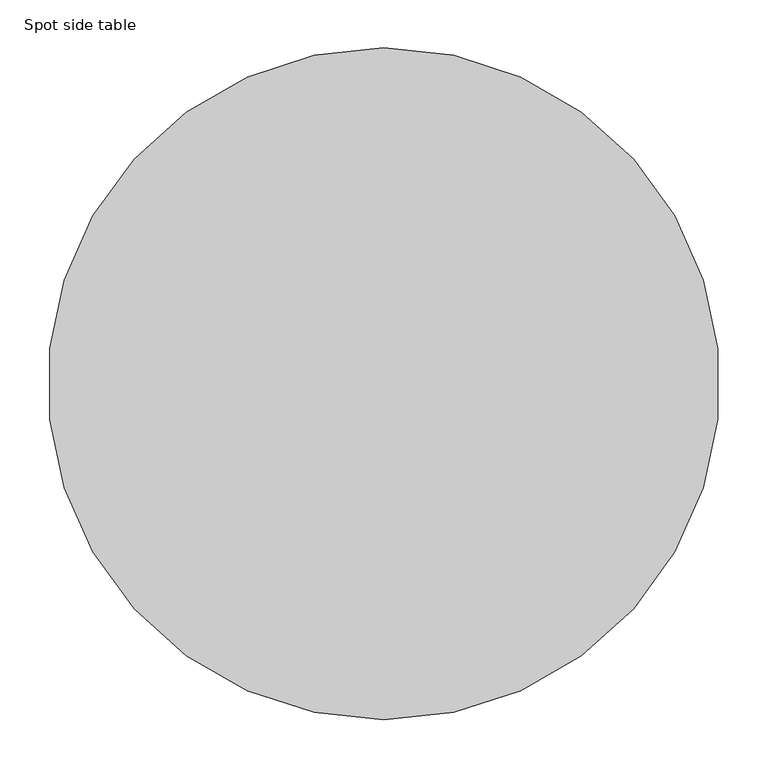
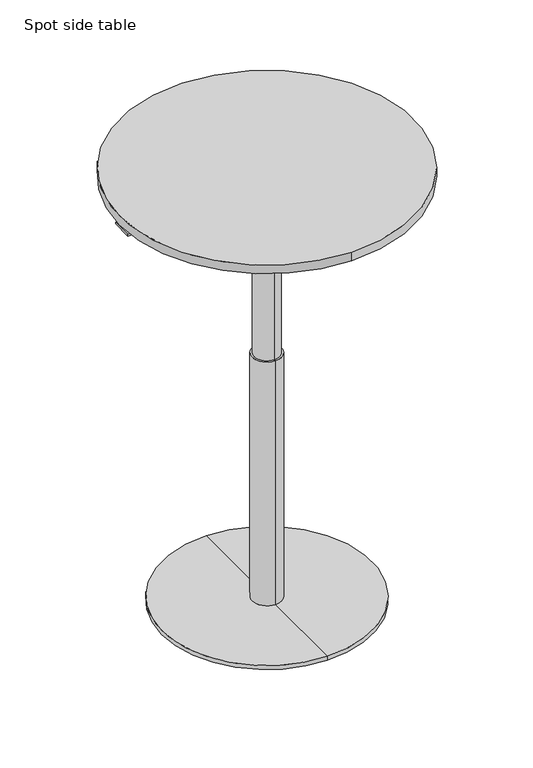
"""IFC4 building model written with IfcOpenShell, lengths in millimetres: furniture geometry, Spot side table : ø70."""

from ifc_helpers import new_model, si_unit, point, frame, origin, origin_2d, place, context, project, spatial, polyline, circle_curve, trimmed, segment, composite_curve, outline, extrude, source, transform, mapped, element, save
from ifc_brep_helpers import plane_surface, cylinder_surface, revolved_surface, advanced_brep


def spot_side_table_6c597cbb(model_context):
    return source(origin(), model_context, "Body", "SolidModel", [
        advanced_brep(
        [(0.0, 35.0, 12.0), (0.0, -35.0, 12.0), (0.0, -35.0, 625.0), (0.0, 35.0, 625.0), (0.0, 250.0, 12.0), (0.0, -250.0, 12.0), (0.0, 250.0, 2.0), (0.0, -250.0, 2.0), (0.0, 0.0, 2.0), (0.0, 150.0, 1068.0), (0.0, -150.0, 1068.0), (0.0, 0.0, 1068.0), (0.0, 150.0, 1056.7213673), (0.0, -150.0, 1056.7213673), (0.0, 30.0, 1037.0795524), (0.0, -30.0, 1037.0795524), (0.0, 30.0, 625.0), (0.0, -30.0, 625.0)],
        [
            (0, 1, circle_curve(frame((0.0, 0.0, 12.0), z_axis=(0.0, 0.0, 1.0), x_axis=(0.0, -1.0, 0.0)), 35.0)),
            (1, 2),
            (2, 3, circle_curve(frame((0.0, 0.0, 625.0), z_axis=(0.0, 0.0, -1.0), x_axis=(0.0, -1.0, 0.0)), 35.0)),
            (3, 0),
            (1, 0, circle_curve(frame((0.0, 0.0, 12.0), z_axis=(0.0, 0.0, 1.0), x_axis=(0.0, -1.0, 0.0)), 35.0)),
            (3, 2, circle_curve(frame((0.0, 0.0, 625.0), z_axis=(0.0, 0.0, -1.0), x_axis=(0.0, -1.0, 0.0)), 35.0)),
            (4, 5, circle_curve(frame((0.0, 0.0, 12.0), z_axis=(0.0, 0.0, 1.0), x_axis=(0.0, -1.0, 0.0)), 250.0)),
            (5, 1),
            (0, 4),
            (5, 4, circle_curve(frame((0.0, 0.0, 12.0), z_axis=(0.0, 0.0, 1.0), x_axis=(0.0, -1.0, 0.0)), 250.0)),
            (6, 7, circle_curve(frame((0.0, 0.0, 2.0), z_axis=(0.0, 0.0, 1.0), x_axis=(0.0, -1.0, 0.0)), 250.0)),
            (7, 5),
            (4, 6),
            (7, 6, circle_curve(frame((0.0, 0.0, 2.0), z_axis=(0.0, 0.0, 1.0), x_axis=(0.0, -1.0, 0.0)), 250.0)),
            (8, 7),
            (6, 8),
            (9, 10, circle_curve(frame((0.0, 0.0, 1068.0), z_axis=(0.0, 0.0, 1.0), x_axis=(0.0, -1.0, 0.0)), 150.0)),
            (10, 11),
            (11, 9),
            (10, 9, circle_curve(frame((0.0, 0.0, 1068.0), z_axis=(0.0, 0.0, 1.0), x_axis=(0.0, -1.0, 0.0)), 150.0)),
            (12, 13, circle_curve(frame((0.0, 0.0, 1056.7213673), z_axis=(0.0, 0.0, 1.0), x_axis=(0.0, -1.0, 0.0)), 150.0)),
            (13, 10),
            (9, 12),
            (13, 12, circle_curve(frame((0.0, 0.0, 1056.7213673), z_axis=(0.0, 0.0, 1.0), x_axis=(0.0, -1.0, 0.0)), 150.0)),
            (14, 15, circle_curve(frame((0.0, 0.0, 1037.0795524), z_axis=(0.0, 0.0, 1.0), x_axis=(0.0, -1.0, 0.0)), 30.0)),
            (15, 13),
            (12, 14),
            (15, 14, circle_curve(frame((0.0, 0.0, 1037.0795524), z_axis=(0.0, 0.0, 1.0), x_axis=(0.0, -1.0, 0.0)), 30.0)),
            (16, 17, circle_curve(frame((0.0, 0.0, 625.0), z_axis=(0.0, 0.0, 1.0), x_axis=(0.0, -1.0, 0.0)), 30.0)),
            (17, 15),
            (14, 16),
            (17, 16, circle_curve(frame((0.0, 0.0, 625.0), z_axis=(0.0, 0.0, 1.0), x_axis=(0.0, -1.0, 0.0)), 30.0)),
            (2, 17),
            (16, 3),
        ],
        [
            cylinder_surface(frame((0.0, 0.0, 1430.0), z_axis=(0.0, 0.0, -1.0), x_axis=(0.0, -1.0, 0.0)), 35.0),
            plane_surface(frame((0.0, 0.0, 12.0), z_axis=(0.0, 0.0, 1.0), x_axis=(0.0, -1.0, 0.0))),
            cylinder_surface(frame((0.0, 0.0, 1430.0), z_axis=(0.0, 0.0, -1.0), x_axis=(0.0, -1.0, 0.0)), 250.0),
            plane_surface(frame((0.0, 0.0, 2.0), z_axis=(0.0, 0.0, -1.0), x_axis=(0.0, -1.0, 0.0))),
            plane_surface(frame((0.0, 0.0, 1068.0), z_axis=(0.0, 0.0, 1.0), x_axis=(0.0, -1.0, 0.0))),
            cylinder_surface(frame((0.0, 0.0, 1430.0), z_axis=(0.0, 0.0, -1.0), x_axis=(0.0, -1.0, 0.0)), 150.0),
            revolved_surface(polyline([(0.0, -150.0, 1056.7213673), (0.0, -30.0, 1037.0795524)]), (0.0, 0.0, 1430.0), (0.0, 0.0, -1.0)),
            cylinder_surface(frame((0.0, 0.0, 1430.0), z_axis=(0.0, 0.0, -1.0), x_axis=(0.0, -1.0, 0.0)), 30.0),
            plane_surface(frame((0.0, 0.0, 625.0), z_axis=(0.0, 0.0, 1.0), x_axis=(0.0, -1.0, 0.0))),
        ],
        [
            (0, [[1, 2, 3, 4]]),
            (0, [[5, -4, 6, -2]]),
            (1, [[7, 8, -1, 9]]),
            (1, [[10, -9, -5, -8]]),
            (2, [[11, 12, -7, 13]]),
            (2, [[14, -13, -10, -12]]),
            (3, [[15, -11, 16]]),
            (3, [[-16, -14, -15]]),
            (4, [[17, 18, 19]]),
            (4, [[20, -19, -18]]),
            (5, [[21, 22, -17, 23]]),
            (5, [[24, -23, -20, -22]]),
            (6, [[25, 26, -21, 27]]),
            (6, [[28, -27, -24, -26]]),
            (7, [[29, 30, -25, 31]]),
            (7, [[32, -31, -28, -30]]),
            (8, [[-3, 33, -29, 34]]),
            (8, [[-6, -34, -32, -33]]),
        ],
    ),
        extrude(outline(composite_curve([segment(trimmed(circle_curve(origin_2d(), 350.0), [point((0.0, -350.0))], [point((0.0, 350.0))], False, "CARTESIAN"), True, "CONTINUOUS"), segment(trimmed(circle_curve(origin_2d(), 350.0), [point((0.0, 350.0))], [point((0.0, -350.0))], False, "CARTESIAN"), True, "CONTINUOUS")], self_intersect=False)), frame((0.0, 0.0, 1068.0), z_axis=(0.0, 0.0, 1.0), x_axis=(1.0, 0.0, 0.0)), (0.0, 0.0, 1.0), 22.0),
        extrude(outline(polyline([(1058.0, -305.0), (1058.0, -345.0), (1054.0, -345.0), (1054.0, -260.0), (1068.0, -260.0), (1068.0, -305.0), (1058.0, -305.0)])), frame((0.0, -25.0, 0.0), z_axis=(0.0, 1.0, 0.0), x_axis=(0.0, 0.0, 1.0)), (0.0, 0.0, 1.0), 50.0),
    ])


if __name__ == "__main__":
    model = new_model("IFC4")
    model_context = context("Model", 3, world=origin())
    ifc_project = project(units=[si_unit("LENGTHUNIT", "METRE", prefix="MILLI")], contexts=[model_context])
    site = spatial("IfcSite", under=ifc_project)
    building = spatial("IfcBuilding", under=site)
    placement = place(None, origin())
    spot_side_table_shape = spot_side_table_6c597cbb(model_context)
    element("IfcFurniture", 1, ObjectType="Spot side table : ø70", at=placement, inside=building, context=model_context, shape_type="MappedRepresentation", body=[
        mapped(spot_side_table_shape, transform((0.0, 0.0, 0.0), x_axis=(1.0, 0.0, 0.0), y_axis=(0.0, 1.0, 0.0), z_axis=(0.0, 0.0, 1.0))),
    ])
    save(model, "model.ifc")
